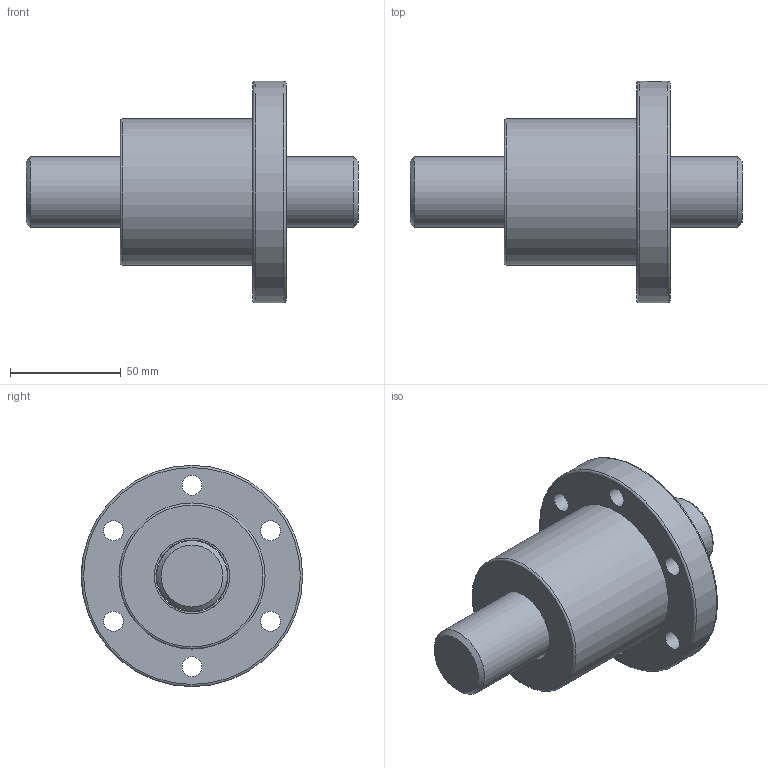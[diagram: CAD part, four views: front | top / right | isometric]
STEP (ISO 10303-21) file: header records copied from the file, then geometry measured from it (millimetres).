
FILE_DESCRIPTION (( 'STEP AP203' ), '1' );
FILE_NAME ('SFV03208-4.8.STEP', '2023-08-16T03:41:03', ( '' ), ( '' ), 'SwSTEP 2.0', 'SolidWorks 2022', '' );
FILE_SCHEMA (( 'CONFIG_CONTROL_DESIGN' ));
Length unit declared in the file: millimetre
Products named in the file (1): SFV03208-4.8
Bounding box: 150 x 100 x 100 mm (x, y, z)
Volume: 364203.4 mm3; surface area: 58442.7 mm2
Topology: 2 solids, 2 shells, 42 faces, 91 edges, 59 vertices
Faces by surface type: cylinder 21, plane 13, cone 3, torus 3, bspline 2
Full cylindrical faces by diameter (mm): 4 x1, 6.917 x1, 9 x6, 14 x6, 32 x1, 32.5 x1, 34.09 x1, 66 x1, 100 x1
Entity records: 2849 total; most frequent: CARTESIAN_POINT 1968, DIRECTION 172, ORIENTED_EDGE 116, EDGE_LOOP 89, AXIS2_PLACEMENT_3D 85, FACE_OUTER_BOUND 64, EDGE_CURVE 58, VERTEX_POINT 51
